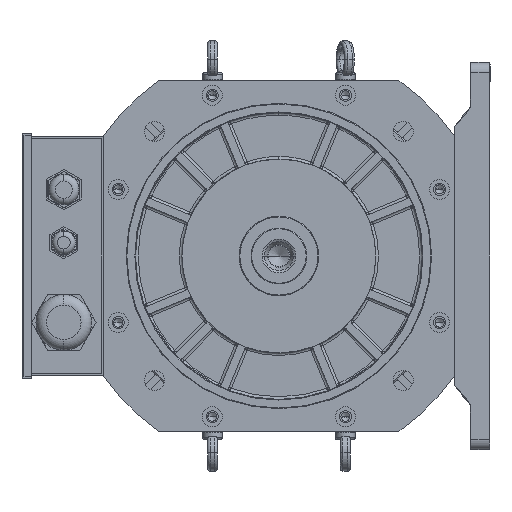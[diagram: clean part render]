
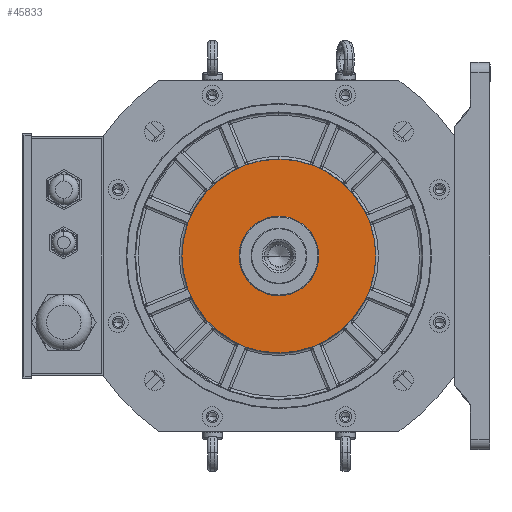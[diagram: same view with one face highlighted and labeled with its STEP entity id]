
A CAD part, left-side view. The second image highlights one B-rep face of the part: STEP entity #45833.
In plain terms, the highlighted planar face has unit normal (-1, 0, 0).
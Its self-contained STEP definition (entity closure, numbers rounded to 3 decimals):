
#1531 = VERTEX_POINT ( 'NONE', #71211 ) ;
#3043 = CIRCLE ( 'NONE', #11043, 30. ) ;
#7247 = DIRECTION ( 'NONE',  ( 0., 0., 1. ) ) ;
#7479 = CARTESIAN_POINT ( 'NONE',  ( 6., 0., 0. ) ) ;
#9416 = CARTESIAN_POINT ( 'NONE',  ( 6., -73., 0. ) ) ;
#9840 = CARTESIAN_POINT ( 'NONE',  ( 6., 0., 73. ) ) ;
#11043 = AXIS2_PLACEMENT_3D ( 'NONE', #18179, #59290, #41783 ) ;
#11537 = DIRECTION ( 'NONE',  ( -1., 0., 0. ) ) ;
#16540 = CARTESIAN_POINT ( 'NONE',  ( 6., 0., -30. ) ) ;
#17415 = CARTESIAN_POINT ( 'NONE',  ( 6., 0., 0. ) ) ;
#18179 = CARTESIAN_POINT ( 'NONE',  ( 6., 0., 0. ) ) ;
#18180 = DIRECTION ( 'NONE',  ( 0., 0., 1. ) ) ;
#21457 = VERTEX_POINT ( 'NONE', #16540 ) ;
#24881 = VERTEX_POINT ( 'NONE', #9840 ) ;
#25607 = EDGE_CURVE ( 'NONE', #21457, #73517, #73335, .T. ) ;
#26595 = DIRECTION ( 'NONE',  ( 0., 0., 1. ) ) ;
#33149 = EDGE_CURVE ( 'NONE', #1531, #24881, #67724, .T. ) ;
#34727 = FACE_OUTER_BOUND ( 'NONE', #48903, .T. ) ;
#34875 = DIRECTION ( 'NONE',  ( 0., 0., 1. ) ) ;
#35896 = CARTESIAN_POINT ( 'NONE',  ( 6., 0., 0. ) ) ;
#37386 = CARTESIAN_POINT ( 'NONE',  ( 6., 0., 30. ) ) ;
#37626 = AXIS2_PLACEMENT_3D ( 'NONE', #17415, #70089, #34875 ) ;
#38258 = AXIS2_PLACEMENT_3D ( 'NONE', #7479, #42157, #7247 ) ;
#41194 = FACE_BOUND ( 'NONE', #68027, .T. ) ;
#41783 = DIRECTION ( 'NONE',  ( 0., 0., 1. ) ) ;
#42098 = ORIENTED_EDGE ( 'NONE', *, *, #33149, .T. ) ;
#42157 = DIRECTION ( 'NONE',  ( -1., 0., 0. ) ) ;
#45574 = CIRCLE ( 'NONE', #38258, 73. ) ;
#45833 = ADVANCED_FACE ( 'NONE', ( #34727, #41194 ), #49994, .T. ) ;
#46430 = AXIS2_PLACEMENT_3D ( 'NONE', #9416, #61837, #26595 ) ;
#48903 = EDGE_LOOP ( 'NONE', ( #67939, #42098 ) ) ;
#49994 = PLANE ( 'NONE',  #46430 ) ;
#55728 = EDGE_CURVE ( 'NONE', #24881, #1531, #45574, .T. ) ;
#59290 = DIRECTION ( 'NONE',  ( -1., 0., 0. ) ) ;
#61837 = DIRECTION ( 'NONE',  ( -1., 0., 0. ) ) ;
#63564 = ORIENTED_EDGE ( 'NONE', *, *, #25607, .F. ) ;
#67724 = CIRCLE ( 'NONE', #37626, 73. ) ;
#67939 = ORIENTED_EDGE ( 'NONE', *, *, #55728, .T. ) ;
#68027 = EDGE_LOOP ( 'NONE', ( #69105, #63564 ) ) ;
#68647 = AXIS2_PLACEMENT_3D ( 'NONE', #35896, #11537, #18180 ) ;
#69105 = ORIENTED_EDGE ( 'NONE', *, *, #69955, .F. ) ;
#69955 = EDGE_CURVE ( 'NONE', #73517, #21457, #3043, .T. ) ;
#70089 = DIRECTION ( 'NONE',  ( -1., 0., 0. ) ) ;
#71211 = CARTESIAN_POINT ( 'NONE',  ( 6., 0., -73. ) ) ;
#73335 = CIRCLE ( 'NONE', #68647, 30. ) ;
#73517 = VERTEX_POINT ( 'NONE', #37386 ) ;
